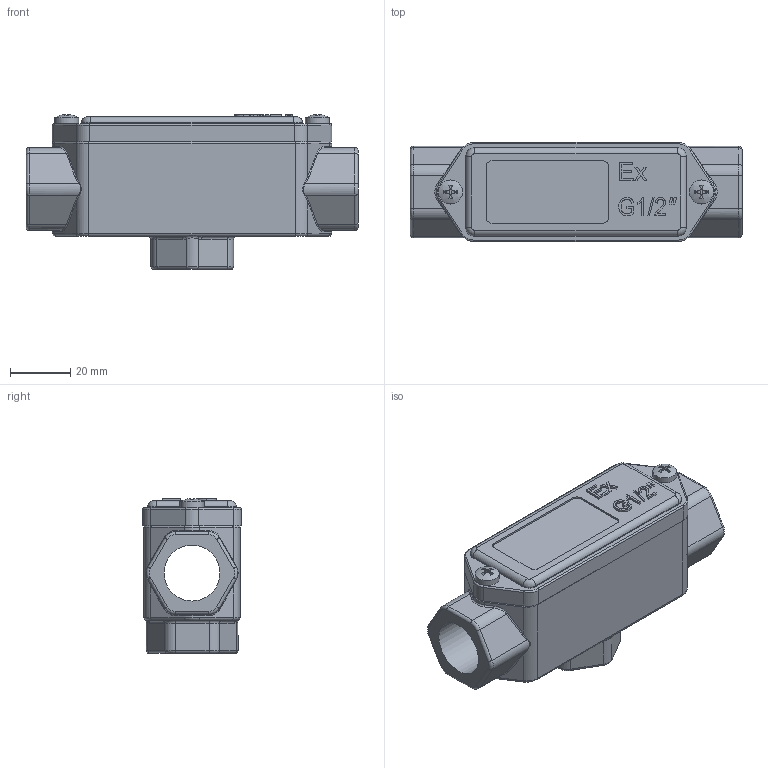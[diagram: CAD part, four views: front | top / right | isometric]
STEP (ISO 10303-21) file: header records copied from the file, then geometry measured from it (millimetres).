
FILE_DESCRIPTION (( 'STEP AP203' ), '1' );
FILE_NAME ('捗藍-痁1_3D.STEP', '2024-03-06T07:13:46', ( '' ), ( '' ), 'SwSTEP 2.0', 'SolidWorks 2018', '' );
FILE_SCHEMA (( 'CONFIG_CONTROL_DESIGN' ));
Length unit declared in the file: millimetre
Products named in the file (1): 捗藍-痁1_3D
Bounding box: 110.5 x 33 x 51.57 mm (x, y, z)
Volume: 53192.1 mm3; surface area: 33273.1 mm2
Topology: 1 solids, 4 shells, 422 faces, 1041 edges, 644 vertices
Faces by surface type: plane 183, cylinder 131, torus 54, bspline 48, cone 4, sphere 2
Full cylindrical faces by diameter (mm): 3.242 x2, 3.394 x2, 4 x2, 4.5 x2, 8 x2, 18.631 x3
Entity records: 16345 total; most frequent: CARTESIAN_POINT 6625, ORIENTED_EDGE 2020, DIRECTION 1952, EDGE_CURVE 1010, AXIS2_PLACEMENT_3D 701, VERTEX_POINT 634, LINE 550, VECTOR 550
